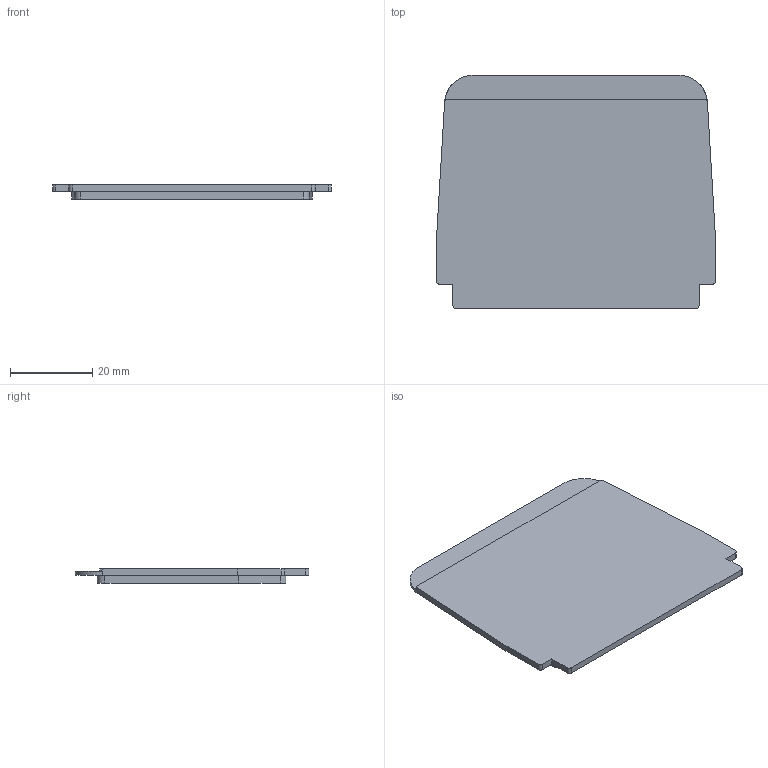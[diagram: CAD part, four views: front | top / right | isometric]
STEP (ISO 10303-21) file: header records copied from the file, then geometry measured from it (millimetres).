
FILE_DESCRIPTION (( 'STEP AP214' ), '1' );
FILE_NAME ('Tapeta.STEP', '2016-09-12T16:22:49', ( 'aaa' ), ( '' ), 'SwSTEP 2.0', 'SolidWorks 2013', '' );
FILE_SCHEMA (( 'AUTOMOTIVE_DESIGN' ));
Length unit declared in the file: millimetre
Products named in the file (1): Tapeta
Bounding box: 68 x 57 x 3.5 mm (x, y, z)
Volume: 10693 mm3; surface area: 8193 mm2
Topology: 1 solids, 1 shells, 33 faces, 90 edges, 60 vertices
Faces by surface type: plane 21, cylinder 12
Entity records: 1084 total; most frequent: CARTESIAN_POINT 184, DIRECTION 184, ORIENTED_EDGE 180, EDGE_CURVE 90, VECTOR 64, LINE 64, AXIS2_PLACEMENT_3D 60, VERTEX_POINT 60
